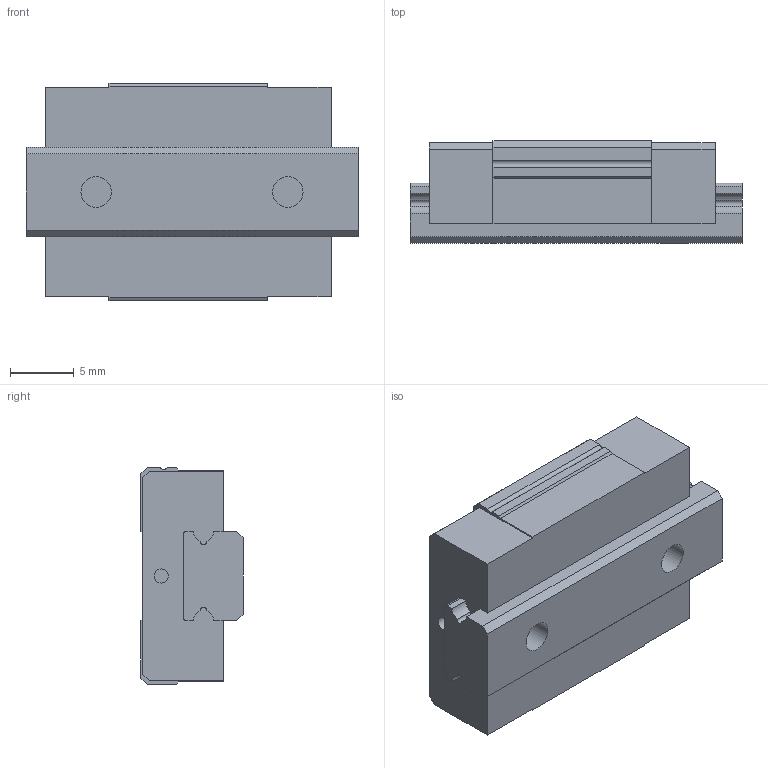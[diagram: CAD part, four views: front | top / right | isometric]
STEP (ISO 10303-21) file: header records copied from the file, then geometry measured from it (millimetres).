
FILE_DESCRIPTION( ( 'STEP AP214' ), '1' );
FILE_NAME( 'G:/品牌/AZI工艺/滑块/GGC/GGC7BA.stp', '2024-01-19T03:32:48', ( 'License CC BY-ND 4.0' ), ( 'CADENAS' ), ' ', 'PARTsolutions', ' ' );
FILE_SCHEMA( ( 'AUTOMOTIVE_DESIGN { 1 0 10303 214 1 1 1 1 }' ) );
Length unit declared in the file: millimetre
Products named in the file (3): ZCE8-26-(12.7-0-0); _ZTCE8-26; _ZZCE8
Assembly tree (2 placements, depth 2):
  ZCE8-26-(12.7-0-0)
    _ZTCE8-26
    _ZZCE8
Bounding box: 26 x 8 x 17 mm (x, y, z)
Volume: 2587.5 mm3; surface area: 2279.7 mm2
Topology: 2 solids, 2 shells, 88 faces, 228 edges, 148 vertices
Faces by surface type: plane 53, cylinder 27, cone 8
Full cylindrical faces by diameter (mm): 1.1 x2, 1.567 x4, 2.4 x2, 4.2 x2
Entity records: 3330 total; most frequent: DIRECTION 446, CARTESIAN_POINT 445, ORIENTED_EDGE 412, EDGE_CURVE 206, AXIS2_PLACEMENT_3D 149, VERTEX_POINT 148, LINE 148, VECTOR 148
